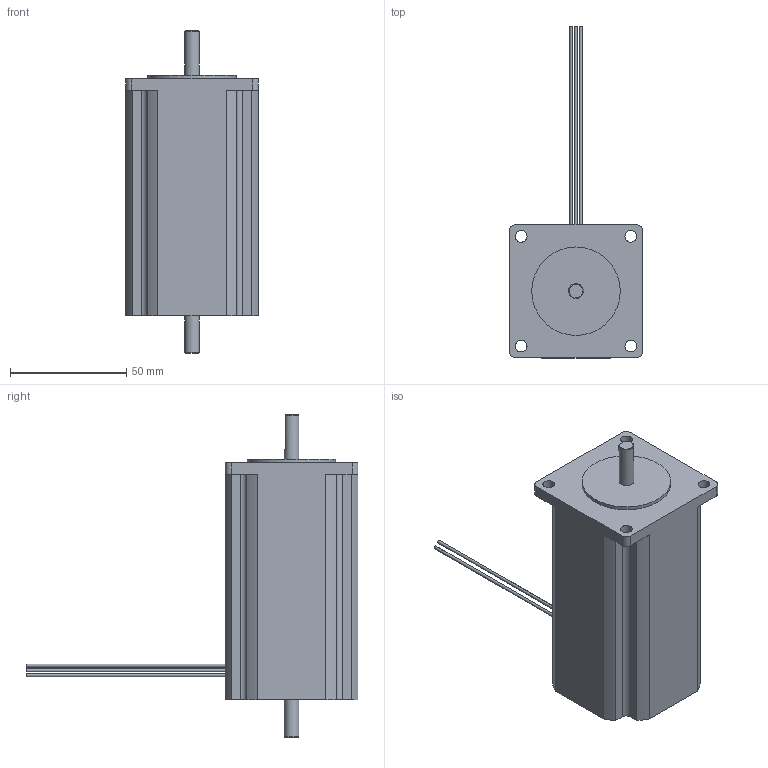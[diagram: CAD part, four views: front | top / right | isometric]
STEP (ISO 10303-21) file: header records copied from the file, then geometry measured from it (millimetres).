
FILE_DESCRIPTION((''),'2;1');
FILE_NAME('C:\Inventor Standard Motors\Eng vault\Workspace\rich''s work space\updated web dwgs\stp\5718\5718c dbl.stp','2009-05-26T20:26:32',('rbadgerow'),(''),'Autodesk Inventor 2009','Autodesk Inventor 2009','');
FILE_SCHEMA(('AUTOMOTIVE_DESIGN { 1 0 10303 214 1 1 1 1 }'));
Length unit declared in the file: inch
Products named in the file (1): 5718c dbl
Bounding box: 57.15 x 142.88 x 138.68 mm (x, y, z)
Volume: 298526.6 mm3; surface area: 30237.9 mm2
Topology: 1 solids, 1 shells, 56 faces, 144 edges, 97 vertices
Faces by surface type: cylinder 27, plane 27, cone 2
Full cylindrical faces by diameter (mm): 1.27 x4, 5.08 x4, 6.35 x2, 38.1 x1
Entity records: 1751 total; most frequent: DIRECTION 300, CARTESIAN_POINT 284, ORIENTED_EDGE 258, EDGE_CURVE 129, AXIS2_PLACEMENT_3D 116, VERTEX_POINT 94, EDGE_LOOP 83, VECTOR 68
